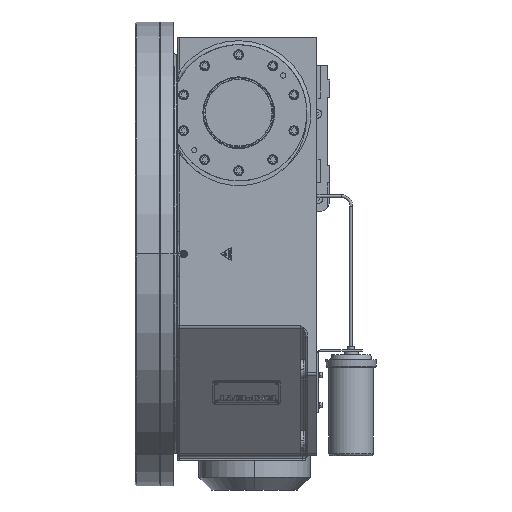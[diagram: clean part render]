
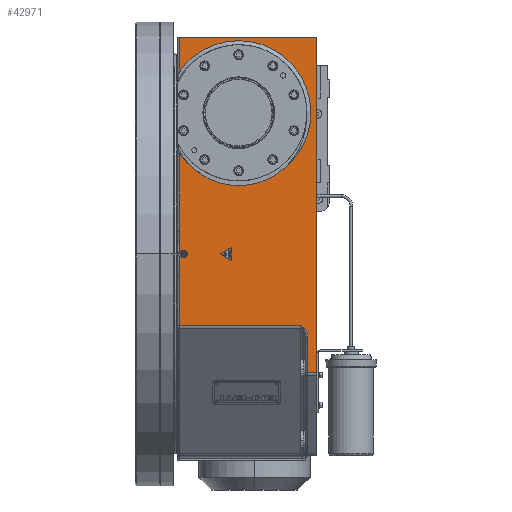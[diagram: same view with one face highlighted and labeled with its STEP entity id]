
A CAD part, left-side view. The second image highlights one B-rep face of the part: STEP entity #42971.
In plain terms, the highlighted planar face has unit normal (-1, 0, 0).
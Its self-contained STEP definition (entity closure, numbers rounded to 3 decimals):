
#29907=CARTESIAN_POINT('',(-400.,264.,0.));
#29908=DIRECTION('',(-1.,0.,0.));
#29909=DIRECTION('',(0.,-1.,0.));
#29910=AXIS2_PLACEMENT_3D('',#29907,#29908,#29909);
#29912=CARTESIAN_POINT('',(-400.,264.,0.));
#29913=DIRECTION('',(-1.,0.,0.));
#29914=DIRECTION('',(0.,1.,0.));
#29915=AXIS2_PLACEMENT_3D('',#29912,#29913,#29914);
#29917=DIRECTION('',(0.,1.,0.));
#29918=VECTOR('',#29917,273.);
#29919=CARTESIAN_POINT('',(-400.,0.,430.));
#29920=LINE('',#29919,#29918);
#29921=DIRECTION('',(0.,0.,1.));
#29922=VECTOR('',#29921,665.474);
#29923=CARTESIAN_POINT('',(-400.,0.,-235.474));
#29924=LINE('',#29923,#29922);
#29925=DIRECTION('',(0.,-1.,0.));
#29926=VECTOR('',#29925,18.);
#29927=CARTESIAN_POINT('',(-400.,18.,-235.474));
#29928=LINE('',#29927,#29926);
#29929=DIRECTION('',(0.,0.,1.));
#29930=VECTOR('',#29929,69.716);
#29931=CARTESIAN_POINT('',(-400.,18.,-235.474));
#29932=LINE('',#29931,#29930);
#29933=CARTESIAN_POINT('',(-400.,18.,
-165.758));
#29934=CARTESIAN_POINT('',(-400.,18.,
-164.003));
#29935=CARTESIAN_POINT('',(-400.,18.268,
-160.684));
#29936=CARTESIAN_POINT('',(-400.,19.283,
-156.278));
#29937=CARTESIAN_POINT('',(-400.,20.792,
-152.456));
#29938=CARTESIAN_POINT('',(-400.,22.734,
-149.236));
#29939=CARTESIAN_POINT('',(-400.,24.254,
-147.557));
#29940=CARTESIAN_POINT('',(-400.,25.075,
-146.829));
#29942=CARTESIAN_POINT('',(-400.,25.075,
-146.829));
#29943=CARTESIAN_POINT('',(-400.,25.559,
-146.401));
#29944=CARTESIAN_POINT('',(-400.,26.584,
-145.548));
#29945=CARTESIAN_POINT('',(-400.,28.288,
-144.278));
#29946=CARTESIAN_POINT('',(-400.,30.178,
-142.986));
#29947=CARTESIAN_POINT('',(-400.,31.394,
-142.191));
#29948=CARTESIAN_POINT('',(-400.,32.,-141.794));
#29950=DIRECTION('',(0.,-1.,0.));
#29951=VECTOR('',#29950,241.);
#29952=CARTESIAN_POINT('',(-400.,273.,-141.794));
#29953=LINE('',#29952,#29951);
#29954=DIRECTION('',(0.,0.,1.));
#29955=VECTOR('',#29954,97.171);
#29956=CARTESIAN_POINT('',(-400.,273.,-141.794));
#29957=LINE('',#29956,#29955);
#29958=CARTESIAN_POINT('',(-400.,273.,
-44.623));
#29959=CARTESIAN_POINT('',(-400.,273.,
-41.475));
#29960=CARTESIAN_POINT('',(-400.,273.053,
-34.896));
#29961=CARTESIAN_POINT('',(-400.,273.229,
-24.075));
#29962=CARTESIAN_POINT('',(-400.,273.406,
-12.614));
#29963=CARTESIAN_POINT('',(-400.,273.461,
-4.303));
#29964=CARTESIAN_POINT('',(-400.,273.462,
0.));
#29966=CARTESIAN_POINT('',(-400.,273.462,
0.));
#29967=CARTESIAN_POINT('',(-400.,273.461,
4.304));
#29968=CARTESIAN_POINT('',(-400.,273.406,
12.616));
#29969=CARTESIAN_POINT('',(-400.,273.229,
24.079));
#29970=CARTESIAN_POINT('',(-400.,273.053,
34.898));
#29971=CARTESIAN_POINT('',(-400.,273.,
41.476));
#29972=CARTESIAN_POINT('',(-400.,273.,
44.623));
#29974=DIRECTION('',(0.,0.,1.));
#29975=VECTOR('',#29974,154.599);
#29976=CARTESIAN_POINT('',(-400.,273.,
44.623));
#29977=LINE('',#29976,#29975);
#29978=CARTESIAN_POINT('',(-400.,273.,
199.222));
#29979=CARTESIAN_POINT('',(-400.,268.382,
192.476));
#29980=CARTESIAN_POINT('',(-400.,258.163,
179.988));
#29981=CARTESIAN_POINT('',(-400.,239.738,
163.955));
#29982=CARTESIAN_POINT('',(-400.,218.985,
151.351));
#29983=CARTESIAN_POINT('',(-400.,196.411,
142.413));
#29984=CARTESIAN_POINT('',(-400.,172.649,
137.404));
#29985=CARTESIAN_POINT('',(-400.,148.364,
136.468));
#29986=CARTESIAN_POINT('',(-400.,124.251,
139.642));
#29987=CARTESIAN_POINT('',(-400.,101.019,
146.84));
#29988=CARTESIAN_POINT('',(-400.,79.344,157.846));
#29989=CARTESIAN_POINT('',(-400.,59.84,172.344));
#29990=CARTESIAN_POINT('',(-400.,43.055,189.923));
#29991=CARTESIAN_POINT('',(-400.,29.471,210.085));
#29992=CARTESIAN_POINT('',(-400.,19.481,232.248));
#29993=CARTESIAN_POINT('',(-400.,13.371,255.777));
#29994=CARTESIAN_POINT('',(-400.,11.315,279.997));
#29995=CARTESIAN_POINT('',(-400.,13.37,304.218));
#29996=CARTESIAN_POINT('',(-400.,19.48,327.747));
#29997=CARTESIAN_POINT('',(-400.,29.469,349.911));
#29998=CARTESIAN_POINT('',(-400.,43.052,370.073));
#29999=CARTESIAN_POINT('',(-400.,59.836,387.653));
#30000=CARTESIAN_POINT('',(-400.,79.34,402.151));
#30001=CARTESIAN_POINT('',(-400.,101.015,
413.159));
#30002=CARTESIAN_POINT('',(-400.,124.247,
420.357));
#30003=CARTESIAN_POINT('',(-400.,148.358,
423.532));
#30004=CARTESIAN_POINT('',(-400.,172.643,
422.597));
#30005=CARTESIAN_POINT('',(-400.,196.404,
417.589));
#30006=CARTESIAN_POINT('',(-400.,218.979,
408.652));
#30007=CARTESIAN_POINT('',(-400.,239.734,
396.048));
#30008=CARTESIAN_POINT('',(-400.,258.163,
380.013));
#30009=CARTESIAN_POINT('',(-400.,268.382,
367.524));
#30010=CARTESIAN_POINT('',(-400.,273.,
360.777));
#30012=DIRECTION('',(0.,0.,1.));
#30013=VECTOR('',#30012,69.223);
#30014=CARTESIAN_POINT('',(-400.,273.,
360.777));
#30015=LINE('',#30014,#30013);
#37042=CARTESIAN_POINT('',(-400.,273.,
360.777));
#41114=CARTESIAN_POINT('',(-400.,271.5,0.));
#41115=CARTESIAN_POINT('',(-400.,256.5,0.));
#41116=VERTEX_POINT('',#41114);
#41117=VERTEX_POINT('',#41115);
#41146=CARTESIAN_POINT('',(-400.,0.,430.));
#41148=VERTEX_POINT('',#41146);
#41352=CARTESIAN_POINT('',(-400.,273.,430.));
#41353=VERTEX_POINT('',#41352);
#41362=CARTESIAN_POINT('',(-400.,0.,-235.474));
#41363=VERTEX_POINT('',#41362);
#42457=CARTESIAN_POINT('',(-400.,273.,-141.794));
#42458=VERTEX_POINT('',#42457);
#42461=CARTESIAN_POINT('',(-400.,273.,
-44.623));
#42462=VERTEX_POINT('',#42461);
#42464=VERTEX_POINT('',#29964);
#42466=VERTEX_POINT('',#29972);
#42469=CARTESIAN_POINT('',(-400.,273.,
199.222));
#42470=VERTEX_POINT('',#42469);
#42476=VERTEX_POINT('',#37042);
#42600=VERTEX_POINT('',#29942);
#42601=VERTEX_POINT('',#29948);
#42604=VERTEX_POINT('',#29933);
#42607=CARTESIAN_POINT('',(-400.,18.,-235.474));
#42608=VERTEX_POINT('',#42607);
#42932=CARTESIAN_POINT('',(-400.,-5.,-239.113));
#42933=DIRECTION('',(-1.,0.,0.));
#42934=DIRECTION('',(0.,0.,1.));
#42935=AXIS2_PLACEMENT_3D('',#42932,#42933,#42934);
#42936=PLANE('',#42935);
#42938=ORIENTED_EDGE('',*,*,#42937,.F.);
#42940=ORIENTED_EDGE('',*,*,#42939,.F.);
#42942=ORIENTED_EDGE('',*,*,#42941,.F.);
#42944=ORIENTED_EDGE('',*,*,#42943,.T.);
#42946=ORIENTED_EDGE('',*,*,#42945,.T.);
#42948=ORIENTED_EDGE('',*,*,#42947,.T.);
#42950=ORIENTED_EDGE('',*,*,#42949,.F.);
#42952=ORIENTED_EDGE('',*,*,#42951,.T.);
#42954=ORIENTED_EDGE('',*,*,#42953,.T.);
#42956=ORIENTED_EDGE('',*,*,#42955,.T.);
#42958=ORIENTED_EDGE('',*,*,#42957,.T.);
#42960=ORIENTED_EDGE('',*,*,#42959,.T.);
#42962=ORIENTED_EDGE('',*,*,#42961,.T.);
#42963=EDGE_LOOP('',(#42938,#42940,#42942,#42944,#42946,#42948,#42950,#42952,
#42954,#42956,#42958,#42960,#42962));
#42964=FACE_OUTER_BOUND('',#42963,.F.);
#42966=ORIENTED_EDGE('',*,*,#42965,.T.);
#42968=ORIENTED_EDGE('',*,*,#42967,.T.);
#42969=EDGE_LOOP('',(#42966,#42968));
#42970=FACE_BOUND('',#42969,.F.);
#42971=ADVANCED_FACE('',(#42964,#42970),#42936,.T.);
#29911=CIRCLE('',#29910,7.5);
#29916=CIRCLE('',#29915,7.5);
#29941=B_SPLINE_CURVE_WITH_KNOTS('',3,(#29933,#29934,#29935,#29936,#29937,
#29938,#29939,#29940),.UNSPECIFIED.,.F.,.F.,(4,1,1,1,1,4),(0.,0.2,0.4,
0.6,0.8,1.),.UNSPECIFIED.);
#29949=B_SPLINE_CURVE_WITH_KNOTS('',3,(#29942,#29943,#29944,#29945,#29946,
#29947,#29948),.UNSPECIFIED.,.F.,.F.,(4,1,1,1,4),(0.,0.25,0.5,0.75,
1.),.UNSPECIFIED.);
#29965=B_SPLINE_CURVE_WITH_KNOTS('',3,(#29958,#29959,#29960,#29961,#29962,
#29963,#29964),.UNSPECIFIED.,.F.,.F.,(4,1,1,1,4),(0.,0.25,0.5,0.75,
1.),.UNSPECIFIED.);
#29973=B_SPLINE_CURVE_WITH_KNOTS('',3,(#29966,#29967,#29968,#29969,#29970,
#29971,#29972),.UNSPECIFIED.,.F.,.F.,(4,1,1,1,4),(0.,0.25,0.5,0.75,
1.),.UNSPECIFIED.);
#30011=B_SPLINE_CURVE_WITH_KNOTS('',3,(#29978,#29979,#29980,#29981,#29982,
#29983,#29984,#29985,#29986,#29987,#29988,#29989,#29990,#29991,#29992,#29993,
#29994,#29995,#29996,#29997,#29998,#29999,#30000,#30001,#30002,#30003,#30004,
#30005,#30006,#30007,#30008,#30009,#30010),.UNSPECIFIED.,.F.,.F.,(4,1,1,1,1,1,1,
1,1,1,1,1,1,1,1,1,1,1,1,1,1,1,1,1,1,1,1,1,1,1,4),(0.,0.033,
0.067,0.1,0.133,0.167,0.2,
0.233,0.267,0.3,0.333,0.367,
0.4,0.433,0.467,0.5,0.533,
0.567,0.6,0.633,0.667,0.7,
0.733,0.767,0.8,0.833,0.867,
0.9,0.933,0.967,1.),.UNSPECIFIED.);
#42937=EDGE_CURVE('',#41148,#41353,#29920,.T.);
#42939=EDGE_CURVE('',#41363,#41148,#29924,.T.);
#42941=EDGE_CURVE('',#42608,#41363,#29928,.T.);
#42943=EDGE_CURVE('',#42608,#42604,#29932,.T.);
#42945=EDGE_CURVE('',#42604,#42600,#29941,.T.);
#42947=EDGE_CURVE('',#42600,#42601,#29949,.T.);
#42949=EDGE_CURVE('',#42458,#42601,#29953,.T.);
#42951=EDGE_CURVE('',#42458,#42462,#29957,.T.);
#42953=EDGE_CURVE('',#42462,#42464,#29965,.T.);
#42955=EDGE_CURVE('',#42464,#42466,#29973,.T.);
#42957=EDGE_CURVE('',#42466,#42470,#29977,.T.);
#42959=EDGE_CURVE('',#42470,#42476,#30011,.T.);
#42961=EDGE_CURVE('',#42476,#41353,#30015,.T.);
#42965=EDGE_CURVE('',#41117,#41116,#29911,.T.);
#42967=EDGE_CURVE('',#41116,#41117,#29916,.T.);
